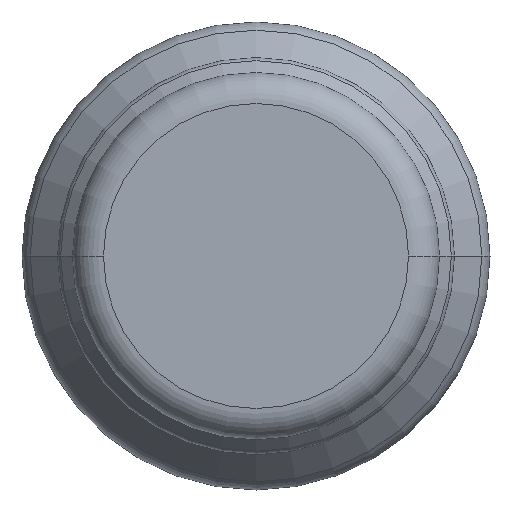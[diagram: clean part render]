
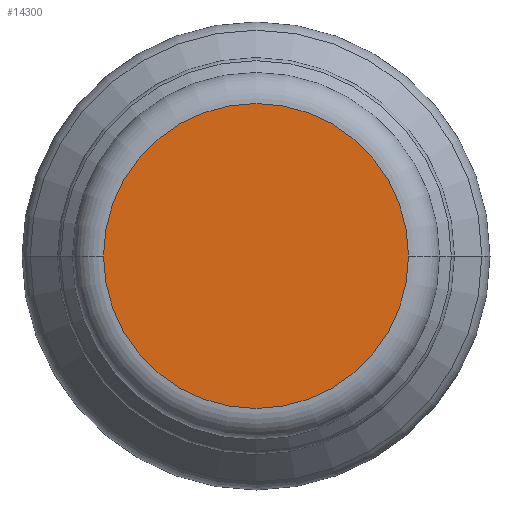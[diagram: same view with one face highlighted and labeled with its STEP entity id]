
A CAD part, front view. The second image highlights one B-rep face of the part: STEP entity #14300.
In plain terms, the highlighted planar face has unit normal (0, -1, 0).
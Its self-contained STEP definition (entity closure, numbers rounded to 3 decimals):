
#13960=CARTESIAN_POINT('',(-32.704,193.581,0.));
#13970=VERTEX_POINT('',#13960);
#14060=CARTESIAN_POINT('',(-67.604,193.581,0.));
#14070=VERTEX_POINT('',#14060);
#14100=CARTESIAN_POINT('',(-50.154,193.581,0.));
#14110=DIRECTION('',(0.,1.,0.));
#14120=DIRECTION('',(1.,0.,0.));
#14130=AXIS2_PLACEMENT_3D('',#14100,#14110,#14120);
#14140=CIRCLE('',#14130,17.45);
#14150=EDGE_CURVE('',#13970,#14070,#14140,.T.);
#14200=CARTESIAN_POINT('',(-43.973,193.581,
19.441));
#14210=DIRECTION('',(0.,-1.,0.));
#14220=DIRECTION('',(1.,0.,0.));
#14230=AXIS2_PLACEMENT_3D('',#14200,#14210,#14220);
#14240=PLANE('',#14230);
#14250=EDGE_CURVE('',#14070,#13970,#14140,.T.);
#14260=ORIENTED_EDGE('',*,*,#14250,.F.);
#14270=ORIENTED_EDGE('',*,*,#14150,.F.);
#14280=EDGE_LOOP('',(#14270,#14260));
#14290=FACE_OUTER_BOUND('',#14280,.T.);
#14300=ADVANCED_FACE('',(#14290),#14240,.T.);
